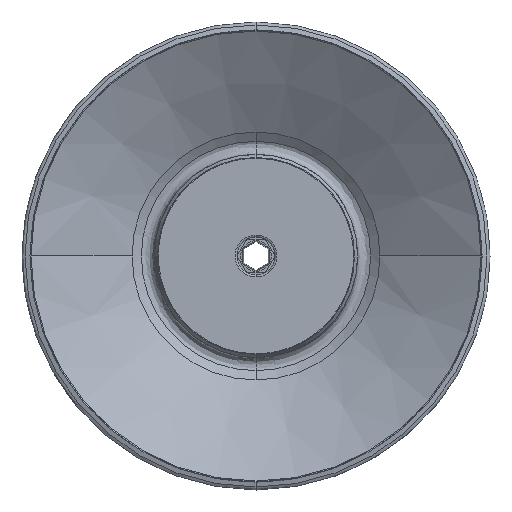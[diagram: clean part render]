
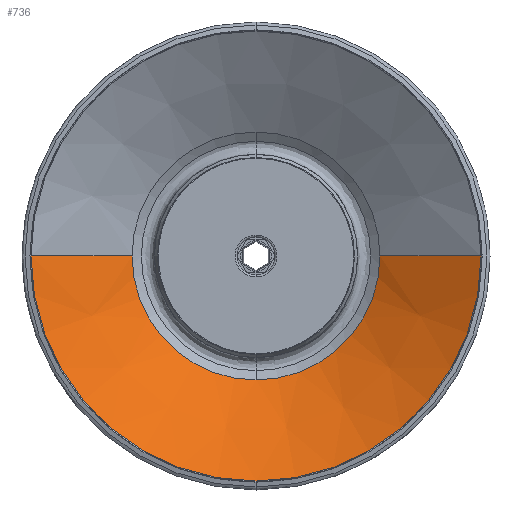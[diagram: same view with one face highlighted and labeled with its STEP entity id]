
A CAD part, front view. The second image highlights one B-rep face of the part: STEP entity #736.
In plain terms, the highlighted conical face has half-angle 58.457 degrees and reference radius 55.3 mm.
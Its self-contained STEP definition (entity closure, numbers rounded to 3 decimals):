
#65 = CARTESIAN_POINT ( 'NONE',  ( -55.3, -42.593, 0. ) ) ;
#174 = ORIENTED_EDGE ( 'NONE', *, *, #1859, .F. ) ;
#306 = VECTOR ( 'NONE', #12326, 1000. ) ;
#332 = CIRCLE ( 'NONE', #6307, 30.463 ) ;
#736 = ADVANCED_FACE ( 'NONE', ( #8929 ), #18470, .F. ) ;
#1062 = CARTESIAN_POINT ( 'NONE',  ( 0., -42.593, 0. ) ) ;
#1231 = CARTESIAN_POINT ( 'NONE',  ( 55.3, -42.593, 0. ) ) ;
#1366 = CARTESIAN_POINT ( 'NONE',  ( 0., -27.348, -30.463 ) ) ;
#1636 = LINE ( 'NONE', #65, #306 ) ;
#1859 = EDGE_CURVE ( 'NONE', #6400, #11435, #2506, .T. ) ;
#2203 = VERTEX_POINT ( 'NONE', #7512 ) ;
#2506 = CIRCLE ( 'NONE', #4070, 55.3 ) ;
#3131 = EDGE_CURVE ( 'NONE', #5541, #14694, #6541, .T. ) ;
#4070 = AXIS2_PLACEMENT_3D ( 'NONE', #16175, #15979, #14601 ) ;
#5307 = CARTESIAN_POINT ( 'NONE',  ( 0., -27.348, 0. ) ) ;
#5342 = VERTEX_POINT ( 'NONE', #15102 ) ;
#5541 = VERTEX_POINT ( 'NONE', #6488 ) ;
#6307 = AXIS2_PLACEMENT_3D ( 'NONE', #5307, #16993, #9842 ) ;
#6400 = VERTEX_POINT ( 'NONE', #13315 ) ;
#6488 = CARTESIAN_POINT ( 'NONE',  ( -30.463, -27.348, 0. ) ) ;
#6541 = CIRCLE ( 'NONE', #18433, 30.463 ) ;
#7213 = ORIENTED_EDGE ( 'NONE', *, *, #17727, .T. ) ;
#7285 = CARTESIAN_POINT ( 'NONE',  ( 0., -42.593, 0. ) ) ;
#7512 = CARTESIAN_POINT ( 'NONE',  ( -55.3, -42.593, 0. ) ) ;
#7553 = VECTOR ( 'NONE', #18784, 1000. ) ;
#7745 = DIRECTION ( 'NONE',  ( 0., 0., -1. ) ) ;
#7987 = EDGE_CURVE ( 'NONE', #11435, #2203, #14653, .T. ) ;
#8929 = FACE_OUTER_BOUND ( 'NONE', #11718, .T. ) ;
#9146 = EDGE_CURVE ( 'NONE', #14694, #5342, #332, .T. ) ;
#9441 = ORIENTED_EDGE ( 'NONE', *, *, #9146, .F. ) ;
#9562 = CARTESIAN_POINT ( 'NONE',  ( 0., -42.593, -55.3 ) ) ;
#9842 = DIRECTION ( 'NONE',  ( 0., 0., -1. ) ) ;
#10068 = ORIENTED_EDGE ( 'NONE', *, *, #11165, .F. ) ;
#10194 = DIRECTION ( 'NONE',  ( 0., 1., 0. ) ) ;
#10297 = CARTESIAN_POINT ( 'NONE',  ( 0., -27.348, 0. ) ) ;
#11165 = EDGE_CURVE ( 'NONE', #5342, #6400, #14681, .T. ) ;
#11435 = VERTEX_POINT ( 'NONE', #9562 ) ;
#11493 = AXIS2_PLACEMENT_3D ( 'NONE', #1062, #10194, #11648 ) ;
#11648 = DIRECTION ( 'NONE',  ( 0., 0., -1. ) ) ;
#11718 = EDGE_LOOP ( 'NONE', ( #17718, #7213, #12437, #174, #10068, #9441 ) ) ;
#11941 = DIRECTION ( 'NONE',  ( 0., -1., 0. ) ) ;
#12326 = DIRECTION ( 'NONE',  ( -0.852, -0.523, 0. ) ) ;
#12334 = DIRECTION ( 'NONE',  ( 1., 0., 0. ) ) ;
#12437 = ORIENTED_EDGE ( 'NONE', *, *, #7987, .F. ) ;
#13315 = CARTESIAN_POINT ( 'NONE',  ( 55.3, -42.593, 0. ) ) ;
#14601 = DIRECTION ( 'NONE',  ( 0., 0., -1. ) ) ;
#14653 = CIRCLE ( 'NONE', #11493, 55.3 ) ;
#14681 = LINE ( 'NONE', #1231, #7553 ) ;
#14694 = VERTEX_POINT ( 'NONE', #1366 ) ;
#15102 = CARTESIAN_POINT ( 'NONE',  ( 30.463, -27.348, 0. ) ) ;
#15289 = DIRECTION ( 'NONE',  ( 0., -1., 0. ) ) ;
#15979 = DIRECTION ( 'NONE',  ( 0., 1., 0. ) ) ;
#15982 = AXIS2_PLACEMENT_3D ( 'NONE', #7285, #15289, #12334 ) ;
#16175 = CARTESIAN_POINT ( 'NONE',  ( 0., -42.593, 0. ) ) ;
#16993 = DIRECTION ( 'NONE',  ( 0., -1., 0. ) ) ;
#17718 = ORIENTED_EDGE ( 'NONE', *, *, #3131, .F. ) ;
#17727 = EDGE_CURVE ( 'NONE', #5541, #2203, #1636, .T. ) ;
#18433 = AXIS2_PLACEMENT_3D ( 'NONE', #10297, #11941, #7745 ) ;
#18470 = CONICAL_SURFACE ( 'NONE', #15982, 55.3, 1.02 ) ;
#18784 = DIRECTION ( 'NONE',  ( 0.852, -0.523, 0. ) ) ;
